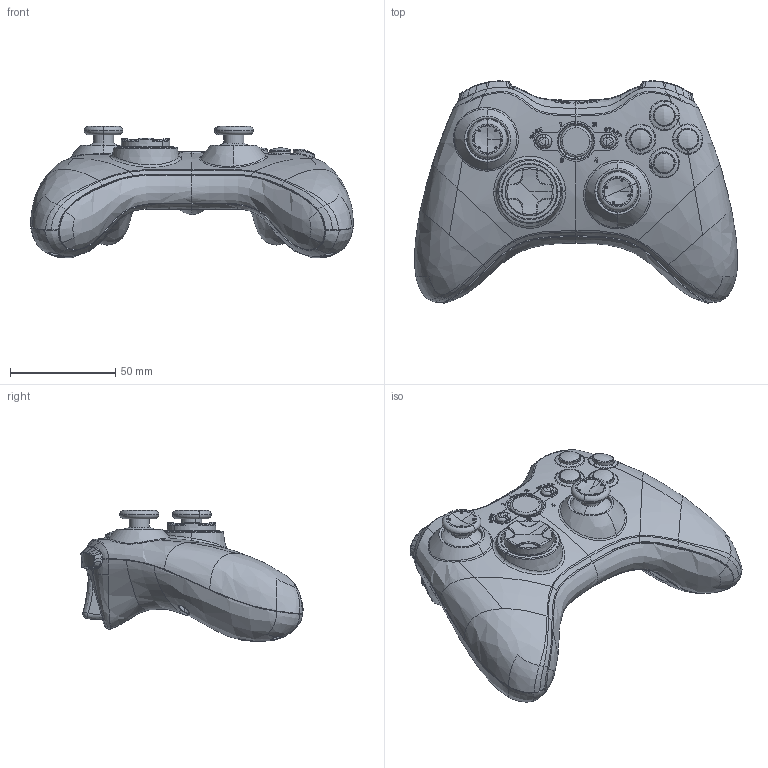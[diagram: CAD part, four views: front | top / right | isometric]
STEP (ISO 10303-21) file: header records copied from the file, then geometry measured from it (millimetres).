
FILE_DESCRIPTION((''),'2;1');
FILE_NAME('XBOX0001_ASM','2025-09-07T11:41:11',('zou'),(''),'CREO PARAMETRIC BY PTC INC, 2022073','CREO PARAMETRIC BY PTC INC, 2022073','');
FILE_SCHEMA(('AUTOMOTIVE_DESIGN { 1 0 10303 214 1 1 1 1 }'));
Products named in the file (8): 1; 03; 01; 4; 04; 02; _; XBOX0001_ASM
Assembly tree (7 placements, depth 2):
  XBOX0001_ASM
    1
    03
    01
    4
    04
    02
    _
Bounding box: 153.67 x 105.7 x 62.58 mm (x, y, z)
Volume: 42012.7 mm3; surface area: 129424.4 mm2
Topology: 11 solids, 21 shells, 3644 faces, 10761 edges, 7161 vertices
Faces by surface type: plane 1707, bspline 731, cylinder 635, extrusion 312, cone 118, torus 85, sphere 56
Entity records: 204991 total; most frequent: CARTESIAN_POINT 90749, ORIENTED_EDGE 21320, DIRECTION 13162, EDGE_CURVE 10726, VERTEX_POINT 7163, B_SPLINE_CURVE_WITH_KNOTS 5032, VECTOR 4710, LINE 4398
